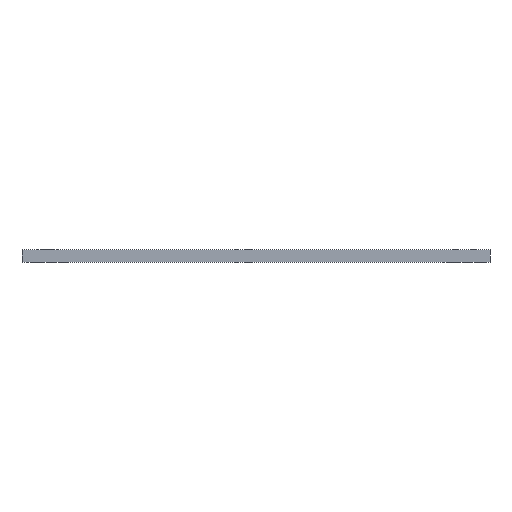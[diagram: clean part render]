
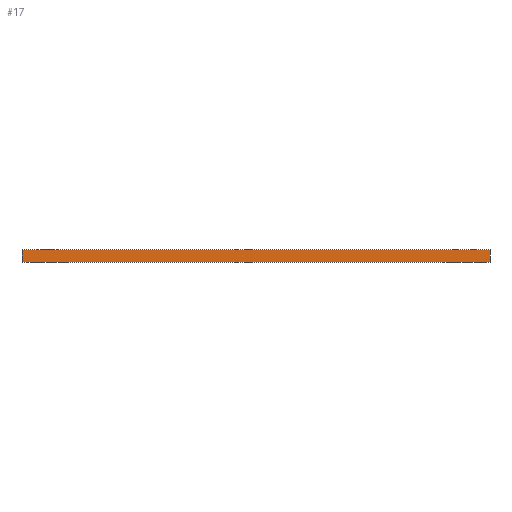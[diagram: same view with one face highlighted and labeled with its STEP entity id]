
A CAD part, front view. The second image highlights one B-rep face of the part: STEP entity #17.
In plain terms, the highlighted planar face has unit normal (0, -1, 0).
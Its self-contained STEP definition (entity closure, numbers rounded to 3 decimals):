
#17 = ADVANCED_FACE('',(#18),#32,.F.);
#18 = FACE_BOUND('',#19,.F.);
#19 = EDGE_LOOP('',(#20,#55,#83,#111));
#20 = ORIENTED_EDGE('',*,*,#21,.T.);
#21 = EDGE_CURVE('',#22,#24,#26,.T.);
#22 = VERTEX_POINT('',#23);
#23 = CARTESIAN_POINT('',(221.,22.,0.));
#24 = VERTEX_POINT('',#25);
#25 = CARTESIAN_POINT('',(221.,22.,1.2));
#26 = SURFACE_CURVE('',#27,(#31,#43),.PCURVE_S1.);
#27 = LINE('',#28,#29);
#28 = CARTESIAN_POINT('',(221.,22.,0.));
#29 = VECTOR('',#30,1.);
#30 = DIRECTION('',(0.,0.,1.));
#31 = PCURVE('',#32,#37);
#32 = PLANE('',#33);
#33 = AXIS2_PLACEMENT_3D('',#34,#35,#36);
#34 = CARTESIAN_POINT('',(221.,22.,0.));
#35 = DIRECTION('',(0.,1.,0.));
#36 = DIRECTION('',(1.,0.,0.));
#37 = DEFINITIONAL_REPRESENTATION('',(#38),#42);
#38 = LINE('',#39,#40);
#39 = CARTESIAN_POINT('',(0.,0.));
#40 = VECTOR('',#41,1.);
#41 = DIRECTION('',(0.,-1.));
#42 = ( GEOMETRIC_REPRESENTATION_CONTEXT(2) 
PARAMETRIC_REPRESENTATION_CONTEXT() REPRESENTATION_CONTEXT('2D SPACE',''
  ) );
#43 = PCURVE('',#44,#49);
#44 = PLANE('',#45);
#45 = AXIS2_PLACEMENT_3D('',#46,#47,#48);
#46 = CARTESIAN_POINT('',(221.,77.,0.));
#47 = DIRECTION('',(1.,0.,-0.));
#48 = DIRECTION('',(0.,-1.,0.));
#49 = DEFINITIONAL_REPRESENTATION('',(#50),#54);
#50 = LINE('',#51,#52);
#51 = CARTESIAN_POINT('',(55.,0.));
#52 = VECTOR('',#53,1.);
#53 = DIRECTION('',(0.,-1.));
#54 = ( GEOMETRIC_REPRESENTATION_CONTEXT(2) 
PARAMETRIC_REPRESENTATION_CONTEXT() REPRESENTATION_CONTEXT('2D SPACE',''
  ) );
#55 = ORIENTED_EDGE('',*,*,#56,.T.);
#56 = EDGE_CURVE('',#24,#57,#59,.T.);
#57 = VERTEX_POINT('',#58);
#58 = CARTESIAN_POINT('',(267.,22.,1.2));
#59 = SURFACE_CURVE('',#60,(#64,#71),.PCURVE_S1.);
#60 = LINE('',#61,#62);
#61 = CARTESIAN_POINT('',(221.,22.,1.2));
#62 = VECTOR('',#63,1.);
#63 = DIRECTION('',(1.,0.,0.));
#64 = PCURVE('',#32,#65);
#65 = DEFINITIONAL_REPRESENTATION('',(#66),#70);
#66 = LINE('',#67,#68);
#67 = CARTESIAN_POINT('',(0.,-1.2));
#68 = VECTOR('',#69,1.);
#69 = DIRECTION('',(1.,0.));
#70 = ( GEOMETRIC_REPRESENTATION_CONTEXT(2) 
PARAMETRIC_REPRESENTATION_CONTEXT() REPRESENTATION_CONTEXT('2D SPACE',''
  ) );
#71 = PCURVE('',#72,#77);
#72 = PLANE('',#73);
#73 = AXIS2_PLACEMENT_3D('',#74,#75,#76);
#74 = CARTESIAN_POINT('',(244.,49.5,1.2));
#75 = DIRECTION('',(0.,0.,1.));
#76 = DIRECTION('',(1.,0.,-0.));
#77 = DEFINITIONAL_REPRESENTATION('',(#78),#82);
#78 = LINE('',#79,#80);
#79 = CARTESIAN_POINT('',(-23.,-27.5));
#80 = VECTOR('',#81,1.);
#81 = DIRECTION('',(1.,0.));
#82 = ( GEOMETRIC_REPRESENTATION_CONTEXT(2) 
PARAMETRIC_REPRESENTATION_CONTEXT() REPRESENTATION_CONTEXT('2D SPACE',''
  ) );
#83 = ORIENTED_EDGE('',*,*,#84,.F.);
#84 = EDGE_CURVE('',#85,#57,#87,.T.);
#85 = VERTEX_POINT('',#86);
#86 = CARTESIAN_POINT('',(267.,22.,0.));
#87 = SURFACE_CURVE('',#88,(#92,#99),.PCURVE_S1.);
#88 = LINE('',#89,#90);
#89 = CARTESIAN_POINT('',(267.,22.,0.));
#90 = VECTOR('',#91,1.);
#91 = DIRECTION('',(0.,0.,1.));
#92 = PCURVE('',#32,#93);
#93 = DEFINITIONAL_REPRESENTATION('',(#94),#98);
#94 = LINE('',#95,#96);
#95 = CARTESIAN_POINT('',(46.,0.));
#96 = VECTOR('',#97,1.);
#97 = DIRECTION('',(0.,-1.));
#98 = ( GEOMETRIC_REPRESENTATION_CONTEXT(2) 
PARAMETRIC_REPRESENTATION_CONTEXT() REPRESENTATION_CONTEXT('2D SPACE',''
  ) );
#99 = PCURVE('',#100,#105);
#100 = PLANE('',#101);
#101 = AXIS2_PLACEMENT_3D('',#102,#103,#104);
#102 = CARTESIAN_POINT('',(267.,22.,0.));
#103 = DIRECTION('',(-1.,0.,0.));
#104 = DIRECTION('',(0.,1.,0.));
#105 = DEFINITIONAL_REPRESENTATION('',(#106),#110);
#106 = LINE('',#107,#108);
#107 = CARTESIAN_POINT('',(0.,0.));
#108 = VECTOR('',#109,1.);
#109 = DIRECTION('',(0.,-1.));
#110 = ( GEOMETRIC_REPRESENTATION_CONTEXT(2) 
PARAMETRIC_REPRESENTATION_CONTEXT() REPRESENTATION_CONTEXT('2D SPACE',''
  ) );
#111 = ORIENTED_EDGE('',*,*,#112,.F.);
#112 = EDGE_CURVE('',#22,#85,#113,.T.);
#113 = SURFACE_CURVE('',#114,(#118,#125),.PCURVE_S1.);
#114 = LINE('',#115,#116);
#115 = CARTESIAN_POINT('',(221.,22.,0.));
#116 = VECTOR('',#117,1.);
#117 = DIRECTION('',(1.,0.,0.));
#118 = PCURVE('',#32,#119);
#119 = DEFINITIONAL_REPRESENTATION('',(#120),#124);
#120 = LINE('',#121,#122);
#121 = CARTESIAN_POINT('',(0.,0.));
#122 = VECTOR('',#123,1.);
#123 = DIRECTION('',(1.,0.));
#124 = ( GEOMETRIC_REPRESENTATION_CONTEXT(2) 
PARAMETRIC_REPRESENTATION_CONTEXT() REPRESENTATION_CONTEXT('2D SPACE',''
  ) );
#125 = PCURVE('',#126,#131);
#126 = PLANE('',#127);
#127 = AXIS2_PLACEMENT_3D('',#128,#129,#130);
#128 = CARTESIAN_POINT('',(244.,49.5,0.));
#129 = DIRECTION('',(0.,0.,1.));
#130 = DIRECTION('',(1.,0.,-0.));
#131 = DEFINITIONAL_REPRESENTATION('',(#132),#136);
#132 = LINE('',#133,#134);
#133 = CARTESIAN_POINT('',(-23.,-27.5));
#134 = VECTOR('',#135,1.);
#135 = DIRECTION('',(1.,0.));
#136 = ( GEOMETRIC_REPRESENTATION_CONTEXT(2) 
PARAMETRIC_REPRESENTATION_CONTEXT() REPRESENTATION_CONTEXT('2D SPACE',''
  ) );
